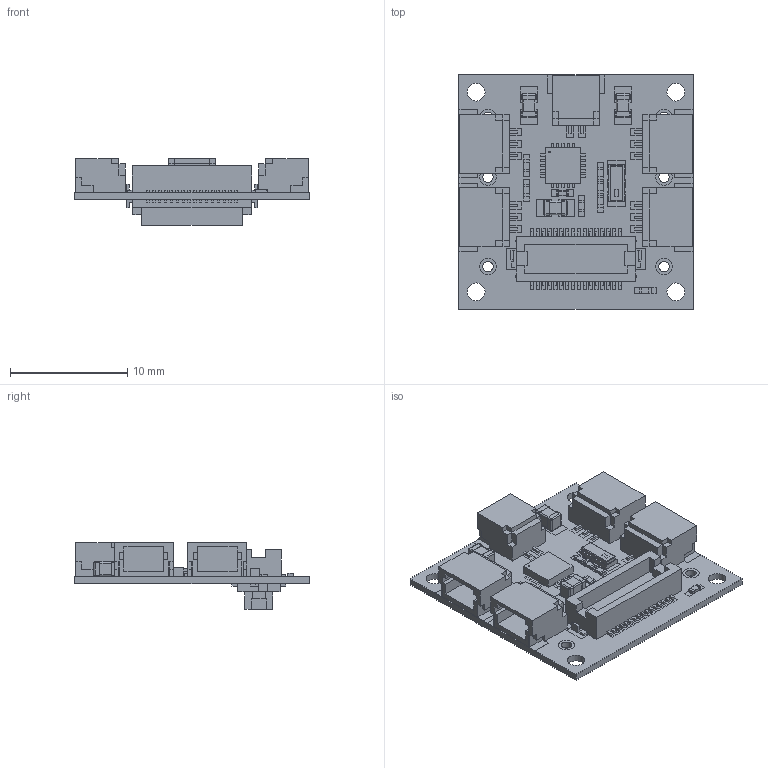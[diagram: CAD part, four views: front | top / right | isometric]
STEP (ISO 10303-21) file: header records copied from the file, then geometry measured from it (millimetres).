
FILE_DESCRIPTION(('FreeCAD Model'),'2;1');
FILE_NAME('/home/devy/MEGA/TinyCircuits/Assets/BoardsANDBoardModels/Shields/TinyCircuits-TinyShield-Servo-Driver-ASD2303/cad/TinyShield_SERVO_STEP_ASD2303_REV3.step','2020-07-07T02:00:06',('Author'),(''), 'Open CASCADE STEP processor 7.4','FreeCAD','Unknown');
FILE_SCHEMA(('AUTOMOTIVE_DESIGN { 1 0 10303 214 1 1 1 1 }'));
Products named in the file (1): TinyShield_SERVO_STEP_ASD2303_REV3
Bounding box: 20 x 20 x 5.71 mm (x, y, z)
Volume: 541.6 mm3; surface area: 2210.3 mm2
Topology: 218 solids, 218 shells, 2284 faces, 5329 edges, 3603 vertices
Faces by surface type: plane 2085, cylinder 167, sphere 32
Full cylindrical faces by diameter (mm): 0.14 x1, 0.5 x4, 0.652 x4, 0.891 x42, 1.397 x28, 1.502 x4
Entity records: 147901 total; most frequent: CARTESIAN_POINT 22830, DIRECTION 20149, LINE 14702, VECTOR 14702, ORIENTED_EDGE 10290, PCURVE 10290, DEFINITIONAL_REPRESENTATION 10290, EDGE_CURVE 5145
